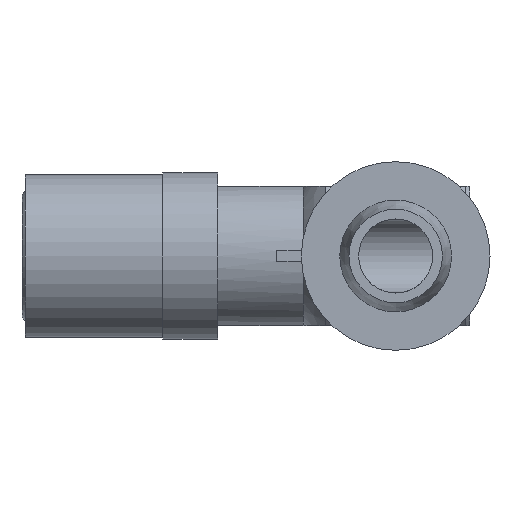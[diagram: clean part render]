
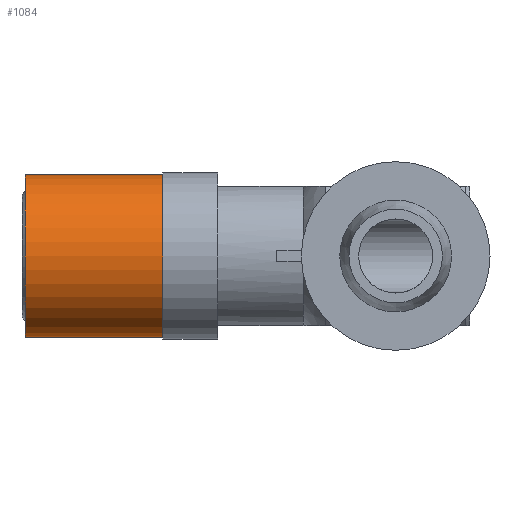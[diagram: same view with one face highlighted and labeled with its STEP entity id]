
A CAD part, front view. The second image highlights one B-rep face of the part: STEP entity #1084.
In plain terms, the highlighted cylindrical face has radius 11.303 mm (diameter 22.606 mm), a full revolution.
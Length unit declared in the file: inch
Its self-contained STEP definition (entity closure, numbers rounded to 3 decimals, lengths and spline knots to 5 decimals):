
#326=ORIENTED_EDGE('',*,*,#593,.F.);
#327=ORIENTED_EDGE('',*,*,#592,.T.);
#592=EDGE_CURVE('',#717,#717,#801,.T.);
#593=EDGE_CURVE('',#718,#718,#802,.T.);
#717=VERTEX_POINT('',#1895);
#718=VERTEX_POINT('',#1898);
#801=CIRCLE('',#1220,0.445);
#802=CIRCLE('',#1222,0.445);
#862=EDGE_LOOP('',(#326));
#863=EDGE_LOOP('',(#327));
#964=FACE_BOUND('',#862,.T.);
#965=FACE_BOUND('',#863,.T.);
#1041=CYLINDRICAL_SURFACE('',#1221,0.445);
#1084=ADVANCED_FACE('',(#964,#965),#1041,.T.);
#1220=AXIS2_PLACEMENT_3D('',#1894,#1495,#1496);
#1221=AXIS2_PLACEMENT_3D('',#1896,#1497,#1498);
#1222=AXIS2_PLACEMENT_3D('',#1897,#1499,#1500);
#1495=DIRECTION('',(1.,0.,0.));
#1496=DIRECTION('',(0.,0.,-1.));
#1497=DIRECTION('',(1.,0.,0.));
#1498=DIRECTION('',(0.,0.,-1.));
#1499=DIRECTION('',(1.,0.,0.));
#1500=DIRECTION('',(0.,0.,-1.));
#1894=CARTESIAN_POINT('',(0.,0.,0.));
#1895=CARTESIAN_POINT('',(0.,0.,-0.445));
#1896=CARTESIAN_POINT('',(2.65103,0.,0.));
#1897=CARTESIAN_POINT('',(0.75,0.,0.));
#1898=CARTESIAN_POINT('',(0.75,0.,-0.445));
